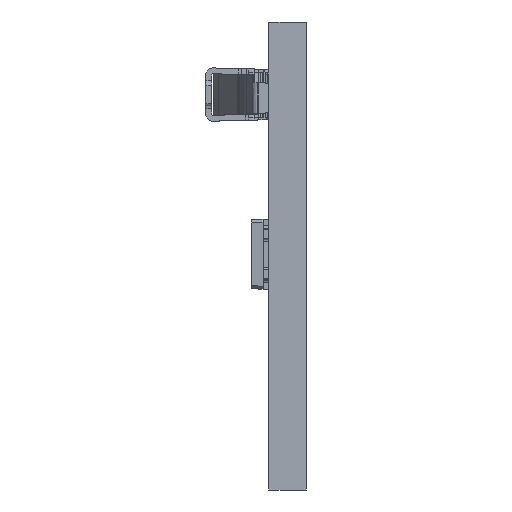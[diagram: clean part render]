
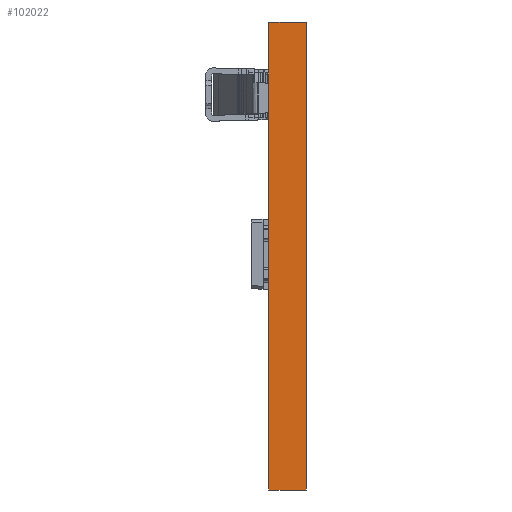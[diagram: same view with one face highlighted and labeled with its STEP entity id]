
A CAD part, left-side view. The second image highlights one B-rep face of the part: STEP entity #102022.
In plain terms, the highlighted planar face has unit normal (-1, 0, 0).
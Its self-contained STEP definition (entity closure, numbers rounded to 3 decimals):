
#10043=DIRECTION('',(0.,0.,1.));
#10044=VECTOR('',#10043,20.);
#10045=CARTESIAN_POINT('',(-139.5,0.,-10.));
#10046=LINE('',#10045,#10044);
#29649=DIRECTION('',(0.,0.,1.));
#29650=VECTOR('',#29649,20.);
#29651=CARTESIAN_POINT('',(-139.5,-1.6,-10.));
#29652=LINE('',#29651,#29650);
#30110=DIRECTION('',(0.,-1.,0.));
#30111=VECTOR('',#30110,1.6);
#30112=CARTESIAN_POINT('',(-139.5,0.,-10.));
#30113=LINE('',#30112,#30111);
#30118=DIRECTION('',(0.,-1.,0.));
#30119=VECTOR('',#30118,1.6);
#30120=CARTESIAN_POINT('',(-139.5,0.,10.));
#30121=LINE('',#30120,#30119);
#30320=CARTESIAN_POINT('',(-139.5,0.,-10.));
#30321=CARTESIAN_POINT('',(-139.5,0.,10.));
#30322=VERTEX_POINT('',#30320);
#30323=VERTEX_POINT('',#30321);
#30328=CARTESIAN_POINT('',(-139.5,-1.6,-10.));
#30329=CARTESIAN_POINT('',(-139.5,-1.6,10.));
#30330=VERTEX_POINT('',#30328);
#30331=VERTEX_POINT('',#30329);
#102010=CARTESIAN_POINT('',(-139.5,0.,-10.));
#102011=DIRECTION('',(-1.,0.,0.));
#102012=DIRECTION('',(0.,0.,1.));
#102013=AXIS2_PLACEMENT_3D('',#102010,#102011,#102012);
#102014=PLANE('',#102013);
#102015=ORIENTED_EDGE('',*,*,#41707,.T.);
#102017=ORIENTED_EDGE('',*,*,#102016,.T.);
#102018=ORIENTED_EDGE('',*,*,#100913,.F.);
#102019=ORIENTED_EDGE('',*,*,#101875,.F.);
#102020=EDGE_LOOP('',(#102015,#102017,#102018,#102019));
#102021=FACE_OUTER_BOUND('',#102020,.F.);
#41707=EDGE_CURVE('',#30322,#30323,#10046,.T.);
#100913=EDGE_CURVE('',#30330,#30331,#29652,.T.);
#101875=EDGE_CURVE('',#30322,#30330,#30113,.T.);
#102016=EDGE_CURVE('',#30323,#30331,#30121,.T.);
#102022=ADVANCED_FACE('',(#102021),#102014,.T.);
